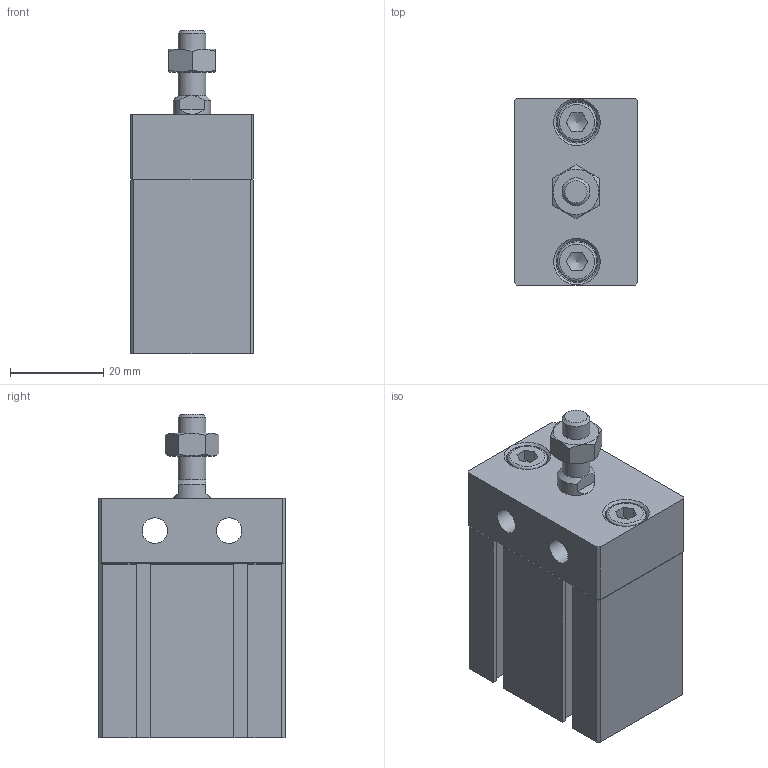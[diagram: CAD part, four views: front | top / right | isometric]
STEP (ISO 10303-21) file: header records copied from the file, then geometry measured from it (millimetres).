
FILE_DESCRIPTION((''),'2;1');
FILE_NAME('I:\3D電子目錄\氣缸\ND\ND\ND20-B\ND20x10-B.stp','2007-07-23T20:23:23',('Administrator'),(''),'Autodesk Inventor 11','Autodesk Inventor 11','');
FILE_SCHEMA(('AUTOMOTIVE_DESIGN { 1 0 10303 214 1 1 1 1 }'));
Length unit declared in the file: millimetre
Products named in the file (4): ND20-B; R 形環 22; ISO 4762 M5 x 12
Assembly tree (4 placements, depth 2):
  ND20-B
    ND20-B
    R 形環 22
    ISO 4762 M5 x 12  x2
Bounding box: 26.4 x 40.1 x 69.5 mm (x, y, z)
Volume: 48770.9 mm3; surface area: 15257.3 mm2
Topology: 5 solids, 5 shells, 170 faces, 420 edges, 269 vertices
Faces by surface type: plane 109, cylinder 28, cone 16, bspline 14, torus 3
Full cylindrical faces by diameter (mm): 1.5 x4, 5 x2, 5.5 x2, 6 x2, 8.5 x2, 9 x2, 13 x1, 21 x1
Entity records: 4613 total; most frequent: CARTESIAN_POINT 980, DIRECTION 710, ORIENTED_EDGE 692, EDGE_CURVE 346, VERTEX_POINT 244, VECTOR 238, LINE 238, AXIS2_PLACEMENT_3D 236
